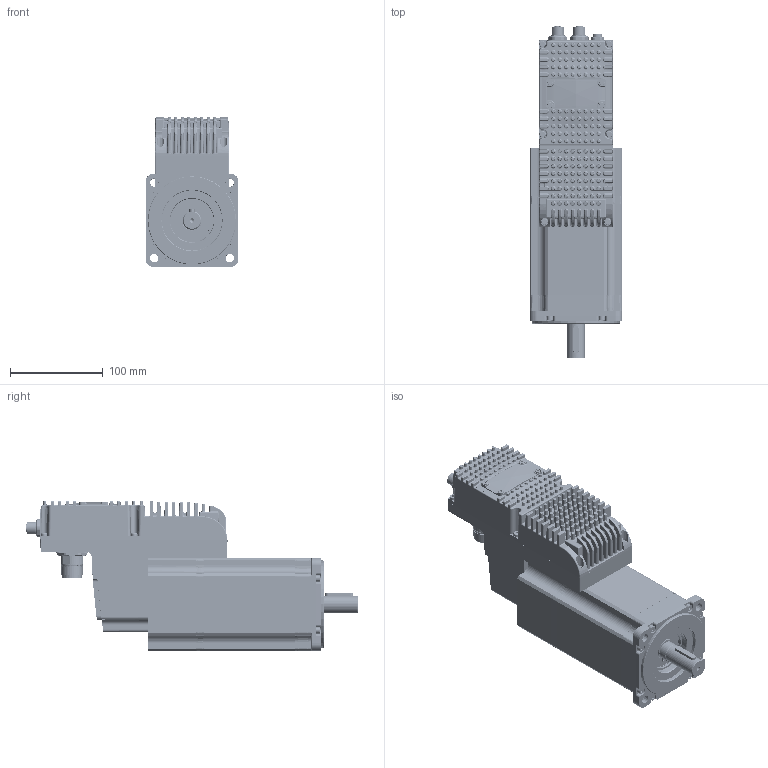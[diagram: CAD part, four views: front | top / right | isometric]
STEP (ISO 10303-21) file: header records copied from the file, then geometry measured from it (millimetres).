
FILE_DESCRIPTION(('CATIA V5 STEP Exchange'),'2;1');
FILE_NAME('F:\Meccanica\IBD\100\3D\assemblati\custom MPC\DUET HV 100 5,6 A1 1 E 0\MD301525.0.0\DUET_HV_100_5,6_A1_1_E_0.stp','2015-07-23T08:18:17+00:00',('none'),('none'),'CATIA Version 5 Release 19 SP 2 (IN-10)','CATIA V5 STEP AP214','none');
FILE_SCHEMA(('AUTOMOTIVE_DESIGN { 1 0 10303 214 1 1 1 1 }'));
Products named in the file (56): DUET HV 100 5,6 A1 1 E 0; MD151014.1.0; MD081003.2.0; V_VTCTX40X12A; V_VTCTX3X6(8.8); LC101004.2.2.n; JS20MNQD6; JS26FSQ7; LT709037RLF1; UKSZ8721BLI; UET1100; JTP1633-2; PC101004.1.0; DLS5977701507; DLRR; DLRV; DWFR01FR10PS; LC051027.2.0; J_7458000000; Connettore_M23_IO; J_7001919137; frutto 16+3; contatto_1mm; contatto_1.5.mm; J_7651000000; Connettore_M23_pot; J_7084943101; JAC7010941001; JAC7010942001; MD081005.6.0; LC101003.3.0; PC101003.3.0; J_4301236; J_RKMHL4S55; JS20FDT7; dado_M12_conec; dado_M8_lumberg; Dado_M23_IO; MMTC1005.617101258002Z4; Vite a brugola testa cil 8,8 -  M  3 x 10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
Assembly tree (113 placements, depth 4):
  DUET HV 100 5,6 A1 1 E 0
    MD151014.1.0
    MD081003.2.0
    V_VTCTX40X12A  x6
    V_VTCTX3X6(8.8)  x4
    LC101004.2.2.n
      JS20MNQD6
      JS26FSQ7
      LT709037RLF1  x2
      UKSZ8721BLI  x2
      UET1100
      JTP1633-2  x2
      PC101004.1.0
      DLS5977701507  x6
      DLRR
      DLRV  x3
      DWFR01FR10PS  x3
    LC051027.2.0
      J_7458000000
        Connettore_M23_IO
      J_7001919137
        frutto 16+3
        contatto_1mm  x16
        contatto_1.5.mm  x3
      J_7651000000
        Connettore_M23_pot
      J_7084943101
      JAC7010941001  x4
      JAC7010942001  x3
    MD081005.6.0
    LC101003.3.0
      PC101003.3.0
      J_4301236  x2
      J_RKMHL4S55
      JS20FDT7
    dado_M12_conec  x2
    dado_M8_lumberg
    Dado_M23_IO  x2
    MMTC1005.617101258002Z4
      Vite a brugola testa cil 8,8 -  M  3 x 10  x2
      Vite a brugola testa cil 8,8 -  M  3 x 50  x2
      Vite a brugola testa cil 8,8 -  M  3 x 60  x2
      KI 100 6Nm_FR_pred kit azionamento_enc std_OIH48_vuoto
        Vite a brugola testa cil 8,8 -  M  4 x 35  x8
        A-Ela 20 P
        CUSC_20_52_15_6304_ZZ_3
        LI-PIA   6x6 x 30
        N33454
        N33454_1
        N09462
        N09449
        Vite a brugola testa cil 8,8 -  M  4 x 12  x4
        N27435
        N25421_6
        N01Q03_6,5_FR
      MD081001.4.0
Bounding box: 100 x 357.5 x 161.2 mm (x, y, z)
Volume: 1127586.8 mm3; surface area: 521134.8 mm2
Topology: 114 solids, 117 shells, 11209 faces, 29932 edges, 19238 vertices
Faces by surface type: plane 4418, cylinder 3593, cone 1014, torus 963, bspline 717, sphere 377, extrusion 123, revolution 4
Entity records: 357026 total; most frequent: CARTESIAN_POINT 120116, ORIENTED_EDGE 46740, DIRECTION 31727, EDGE_CURVE 23370, VERTEX_POINT 15173, AXIS2_PLACEMENT_3D 14678, VECTOR 10556, LINE 10433
